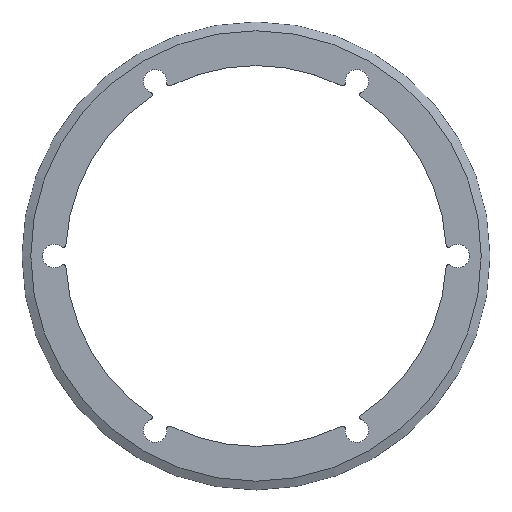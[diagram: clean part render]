
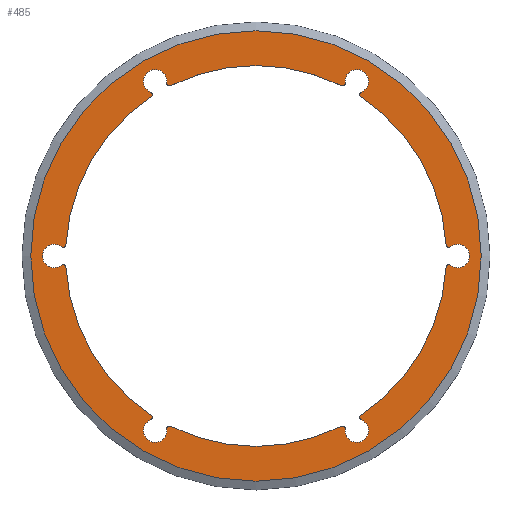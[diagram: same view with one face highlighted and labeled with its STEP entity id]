
A CAD part, top view. The second image highlights one B-rep face of the part: STEP entity #485.
In plain terms, the highlighted planar face has unit normal (0, 0, 1).
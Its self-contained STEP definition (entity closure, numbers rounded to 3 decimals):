
#131=ORIENTED_EDGE('',*,*,#276,.F.);
#132=ORIENTED_EDGE('',*,*,#262,.T.);
#133=ORIENTED_EDGE('',*,*,#277,.F.);
#134=ORIENTED_EDGE('',*,*,#278,.F.);
#135=ORIENTED_EDGE('',*,*,#279,.F.);
#136=ORIENTED_EDGE('',*,*,#280,.T.);
#137=ORIENTED_EDGE('',*,*,#281,.F.);
#138=ORIENTED_EDGE('',*,*,#282,.F.);
#139=ORIENTED_EDGE('',*,*,#283,.F.);
#140=ORIENTED_EDGE('',*,*,#274,.T.);
#141=ORIENTED_EDGE('',*,*,#284,.F.);
#142=ORIENTED_EDGE('',*,*,#285,.F.);
#143=ORIENTED_EDGE('',*,*,#286,.F.);
#144=ORIENTED_EDGE('',*,*,#271,.T.);
#145=ORIENTED_EDGE('',*,*,#287,.F.);
#146=ORIENTED_EDGE('',*,*,#288,.F.);
#147=ORIENTED_EDGE('',*,*,#289,.F.);
#148=ORIENTED_EDGE('',*,*,#268,.T.);
#149=ORIENTED_EDGE('',*,*,#290,.F.);
#150=ORIENTED_EDGE('',*,*,#291,.F.);
#151=ORIENTED_EDGE('',*,*,#292,.F.);
#152=ORIENTED_EDGE('',*,*,#265,.T.);
#153=ORIENTED_EDGE('',*,*,#293,.F.);
#154=ORIENTED_EDGE('',*,*,#294,.F.);
#155=ORIENTED_EDGE('',*,*,#295,.F.);
#262=EDGE_CURVE('',#337,#336,#387,.T.);
#265=EDGE_CURVE('',#339,#338,#388,.T.);
#268=EDGE_CURVE('',#341,#340,#389,.T.);
#271=EDGE_CURVE('',#343,#342,#390,.T.);
#274=EDGE_CURVE('',#345,#344,#391,.T.);
#276=EDGE_CURVE('',#337,#346,#392,.T.);
#277=EDGE_CURVE('',#347,#336,#393,.T.);
#278=EDGE_CURVE('',#348,#347,#394,.F.);
#279=EDGE_CURVE('',#349,#348,#395,.T.);
#280=EDGE_CURVE('',#349,#350,#396,.T.);
#281=EDGE_CURVE('',#351,#350,#397,.T.);
#282=EDGE_CURVE('',#352,#351,#398,.F.);
#283=EDGE_CURVE('',#345,#352,#399,.T.);
#284=EDGE_CURVE('',#353,#344,#400,.T.);
#285=EDGE_CURVE('',#354,#353,#401,.F.);
#286=EDGE_CURVE('',#343,#354,#402,.T.);
#287=EDGE_CURVE('',#355,#342,#403,.T.);
#288=EDGE_CURVE('',#356,#355,#404,.F.);
#289=EDGE_CURVE('',#341,#356,#405,.T.);
#290=EDGE_CURVE('',#357,#340,#406,.T.);
#291=EDGE_CURVE('',#358,#357,#407,.F.);
#292=EDGE_CURVE('',#339,#358,#408,.T.);
#293=EDGE_CURVE('',#359,#338,#409,.T.);
#294=EDGE_CURVE('',#346,#359,#410,.F.);
#295=EDGE_CURVE('',#360,#360,#411,.T.);
#336=VERTEX_POINT('',#837);
#337=VERTEX_POINT('',#839);
#338=VERTEX_POINT('',#843);
#339=VERTEX_POINT('',#845);
#340=VERTEX_POINT('',#849);
#341=VERTEX_POINT('',#851);
#342=VERTEX_POINT('',#855);
#343=VERTEX_POINT('',#857);
#344=VERTEX_POINT('',#861);
#345=VERTEX_POINT('',#863);
#346=VERTEX_POINT('',#867);
#347=VERTEX_POINT('',#869);
#348=VERTEX_POINT('',#871);
#349=VERTEX_POINT('',#873);
#350=VERTEX_POINT('',#875);
#351=VERTEX_POINT('',#877);
#352=VERTEX_POINT('',#879);
#353=VERTEX_POINT('',#882);
#354=VERTEX_POINT('',#884);
#355=VERTEX_POINT('',#887);
#356=VERTEX_POINT('',#889);
#357=VERTEX_POINT('',#892);
#358=VERTEX_POINT('',#894);
#359=VERTEX_POINT('',#897);
#360=VERTEX_POINT('',#900);
#387=CIRCLE('',#547,32.55);
#388=CIRCLE('',#549,32.55);
#389=CIRCLE('',#551,32.55);
#390=CIRCLE('',#553,32.55);
#391=CIRCLE('',#555,32.55);
#392=CIRCLE('',#557,0.5);
#393=CIRCLE('',#558,0.5);
#394=CIRCLE('',#559,2.005);
#395=CIRCLE('',#560,0.5);
#396=CIRCLE('',#561,32.55);
#397=CIRCLE('',#562,0.5);
#398=CIRCLE('',#563,2.005);
#399=CIRCLE('',#564,0.5);
#400=CIRCLE('',#565,0.5);
#401=CIRCLE('',#566,2.005);
#402=CIRCLE('',#567,0.5);
#403=CIRCLE('',#568,0.5);
#404=CIRCLE('',#569,2.005);
#405=CIRCLE('',#570,0.5);
#406=CIRCLE('',#571,0.5);
#407=CIRCLE('',#572,2.005);
#408=CIRCLE('',#573,0.5);
#409=CIRCLE('',#574,0.5);
#410=CIRCLE('',#575,2.005);
#411=CIRCLE('',#576,38.5);
#420=EDGE_LOOP('',(#131,#132,#133,#134,#135,#136,#137,#138,#139,#140,#141,
#142,#143,#144,#145,#146,#147,#148,#149,#150,#151,#152,#153,#154));
#421=EDGE_LOOP('',(#155));
#452=FACE_BOUND('',#420,.T.);
#453=FACE_BOUND('',#421,.T.);
#478=PLANE('',#556);
#485=ADVANCED_FACE('',(#452,#453),#478,.F.);
#547=AXIS2_PLACEMENT_3D('',#838,#656,#657);
#549=AXIS2_PLACEMENT_3D('',#844,#662,#663);
#551=AXIS2_PLACEMENT_3D('',#850,#668,#669);
#553=AXIS2_PLACEMENT_3D('',#856,#674,#675);
#555=AXIS2_PLACEMENT_3D('',#862,#680,#681);
#556=AXIS2_PLACEMENT_3D('',#865,#683,#684);
#557=AXIS2_PLACEMENT_3D('',#866,#685,#686);
#558=AXIS2_PLACEMENT_3D('',#868,#687,#688);
#559=AXIS2_PLACEMENT_3D('',#870,#689,#690);
#560=AXIS2_PLACEMENT_3D('',#872,#691,#692);
#561=AXIS2_PLACEMENT_3D('',#874,#693,#694);
#562=AXIS2_PLACEMENT_3D('',#876,#695,#696);
#563=AXIS2_PLACEMENT_3D('',#878,#697,#698);
#564=AXIS2_PLACEMENT_3D('',#880,#699,#700);
#565=AXIS2_PLACEMENT_3D('',#881,#701,#702);
#566=AXIS2_PLACEMENT_3D('',#883,#703,#704);
#567=AXIS2_PLACEMENT_3D('',#885,#705,#706);
#568=AXIS2_PLACEMENT_3D('',#886,#707,#708);
#569=AXIS2_PLACEMENT_3D('',#888,#709,#710);
#570=AXIS2_PLACEMENT_3D('',#890,#711,#712);
#571=AXIS2_PLACEMENT_3D('',#891,#713,#714);
#572=AXIS2_PLACEMENT_3D('',#893,#715,#716);
#573=AXIS2_PLACEMENT_3D('',#895,#717,#718);
#574=AXIS2_PLACEMENT_3D('',#896,#719,#720);
#575=AXIS2_PLACEMENT_3D('',#898,#721,#722);
#576=AXIS2_PLACEMENT_3D('',#899,#723,#724);
#656=DIRECTION('',(0.,0.,-1.));
#657=DIRECTION('',(-1.,0.,0.));
#662=DIRECTION('',(0.,0.,-1.));
#663=DIRECTION('',(-1.,0.,0.));
#668=DIRECTION('',(0.,0.,-1.));
#669=DIRECTION('',(-1.,0.,0.));
#674=DIRECTION('',(0.,0.,-1.));
#675=DIRECTION('',(-1.,0.,0.));
#680=DIRECTION('',(0.,0.,-1.));
#681=DIRECTION('',(-1.,0.,0.));
#683=DIRECTION('',(0.,0.,-1.));
#684=DIRECTION('',(-1.,0.,0.));
#685=DIRECTION('',(0.,0.,-1.));
#686=DIRECTION('',(-1.,0.,0.));
#687=DIRECTION('',(0.,0.,-1.));
#688=DIRECTION('',(-1.,0.,0.));
#689=DIRECTION('',(0.,0.,-1.));
#690=DIRECTION('',(-1.,0.,0.));
#691=DIRECTION('',(0.,0.,-1.));
#692=DIRECTION('',(-1.,0.,0.));
#693=DIRECTION('',(0.,0.,-1.));
#694=DIRECTION('',(-1.,0.,0.));
#695=DIRECTION('',(0.,0.,-1.));
#696=DIRECTION('',(-1.,0.,0.));
#697=DIRECTION('',(0.,0.,-1.));
#698=DIRECTION('',(-1.,0.,0.));
#699=DIRECTION('',(0.,0.,-1.));
#700=DIRECTION('',(-1.,0.,0.));
#701=DIRECTION('',(0.,0.,-1.));
#702=DIRECTION('',(-1.,0.,0.));
#703=DIRECTION('',(0.,0.,-1.));
#704=DIRECTION('',(-1.,0.,0.));
#705=DIRECTION('',(0.,0.,-1.));
#706=DIRECTION('',(-1.,0.,0.));
#707=DIRECTION('',(0.,0.,-1.));
#708=DIRECTION('',(-1.,0.,0.));
#709=DIRECTION('',(0.,0.,-1.));
#710=DIRECTION('',(-1.,0.,0.));
#711=DIRECTION('',(0.,0.,-1.));
#712=DIRECTION('',(-1.,0.,0.));
#713=DIRECTION('',(0.,0.,-1.));
#714=DIRECTION('',(-1.,0.,0.));
#715=DIRECTION('',(0.,0.,-1.));
#716=DIRECTION('',(-1.,0.,0.));
#717=DIRECTION('',(0.,0.,-1.));
#718=DIRECTION('',(-1.,0.,0.));
#719=DIRECTION('',(0.,0.,-1.));
#720=DIRECTION('',(-1.,0.,0.));
#721=DIRECTION('',(0.,0.,-1.));
#722=DIRECTION('',(-1.,0.,0.));
#723=DIRECTION('',(0.,0.,-1.));
#724=DIRECTION('',(-1.,0.,0.));
#837=CARTESIAN_POINT('',(-32.49,-1.968,1.5));
#838=CARTESIAN_POINT('',(0.,0.,1.5));
#839=CARTESIAN_POINT('',(-17.95,-27.153,1.5));
#843=CARTESIAN_POINT('',(-14.541,-29.122,1.5));
#844=CARTESIAN_POINT('',(0.,0.,1.5));
#845=CARTESIAN_POINT('',(14.541,-29.122,1.5));
#849=CARTESIAN_POINT('',(17.95,-27.153,1.5));
#850=CARTESIAN_POINT('',(0.,0.,1.5));
#851=CARTESIAN_POINT('',(32.49,-1.968,1.5));
#855=CARTESIAN_POINT('',(32.49,1.968,1.5));
#856=CARTESIAN_POINT('',(0.,0.,1.5));
#857=CARTESIAN_POINT('',(17.95,27.153,1.5));
#861=CARTESIAN_POINT('',(14.541,29.122,1.5));
#862=CARTESIAN_POINT('',(0.,0.,1.5));
#863=CARTESIAN_POINT('',(-14.541,29.122,1.5));
#865=CARTESIAN_POINT('',(0.,32.5,1.5));
#866=CARTESIAN_POINT('',(-18.225,-27.571,1.5));
#867=CARTESIAN_POINT('',(-18.031,-28.031,1.5));
#868=CARTESIAN_POINT('',(-32.99,-1.998,1.5));
#869=CARTESIAN_POINT('',(-33.291,-1.599,1.5));
#870=CARTESIAN_POINT('',(-34.5,0.,1.5));
#871=CARTESIAN_POINT('',(-33.291,1.599,1.5));
#872=CARTESIAN_POINT('',(-32.99,1.998,1.5));
#873=CARTESIAN_POINT('',(-32.49,1.968,1.5));
#874=CARTESIAN_POINT('',(0.,0.,1.5));
#875=CARTESIAN_POINT('',(-17.95,27.153,1.5));
#876=CARTESIAN_POINT('',(-18.225,27.571,1.5));
#877=CARTESIAN_POINT('',(-18.031,28.031,1.5));
#878=CARTESIAN_POINT('',(-17.25,29.878,1.5));
#879=CARTESIAN_POINT('',(-15.26,29.631,1.5));
#880=CARTESIAN_POINT('',(-14.764,29.569,1.5));
#881=CARTESIAN_POINT('',(14.764,29.569,1.5));
#882=CARTESIAN_POINT('',(15.26,29.631,1.5));
#883=CARTESIAN_POINT('',(17.25,29.878,1.5));
#884=CARTESIAN_POINT('',(18.031,28.031,1.5));
#885=CARTESIAN_POINT('',(18.225,27.571,1.5));
#886=CARTESIAN_POINT('',(32.99,1.998,1.5));
#887=CARTESIAN_POINT('',(33.291,1.599,1.5));
#888=CARTESIAN_POINT('',(34.5,0.,1.5));
#889=CARTESIAN_POINT('',(33.291,-1.599,1.5));
#890=CARTESIAN_POINT('',(32.99,-1.998,1.5));
#891=CARTESIAN_POINT('',(18.225,-27.571,1.5));
#892=CARTESIAN_POINT('',(18.031,-28.031,1.5));
#893=CARTESIAN_POINT('',(17.25,-29.878,1.5));
#894=CARTESIAN_POINT('',(15.26,-29.631,1.5));
#895=CARTESIAN_POINT('',(14.764,-29.569,1.5));
#896=CARTESIAN_POINT('',(-14.764,-29.569,1.5));
#897=CARTESIAN_POINT('',(-15.26,-29.631,1.5));
#898=CARTESIAN_POINT('',(-17.25,-29.878,1.5));
#899=CARTESIAN_POINT('',(0.,0.,1.5));
#900=CARTESIAN_POINT('',(-38.5,0.,1.5));
